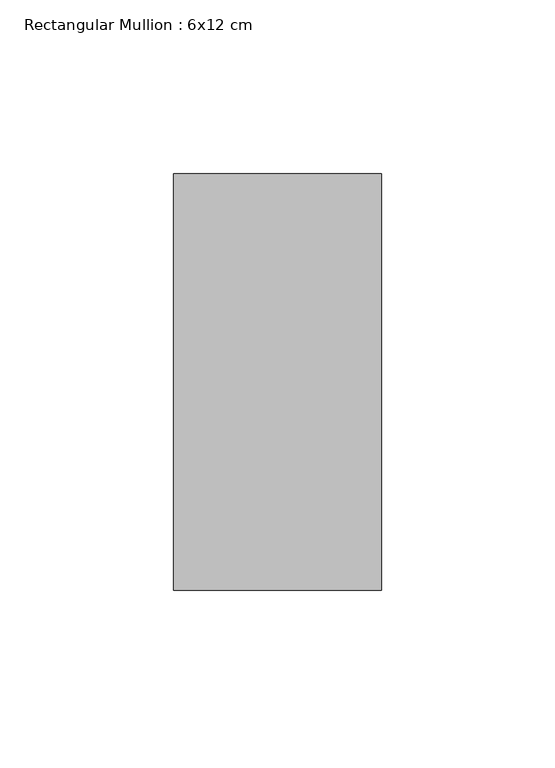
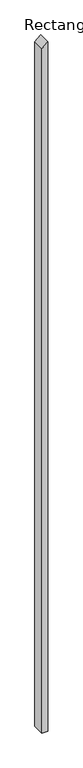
"""IFC4 building model written with IfcOpenShell, lengths in millimetres: member geometry, Rectangular Mullion : 6x12 cm."""

from ifc_helpers import new_model, si_unit, frame, origin, place, context, project, spatial, polyline, outline, extrude, source, transform, mapped, element, save


def rectangular_mullion_6x12_cm_ac06efc5(model_context):
    return source(origin(), model_context, "Body", "SweptSolid", [
        extrude(outline(polyline([(-53.2294579, 30.0), (-104.1141863, -30.0), (-7294.1016832, -30.0), (-7294.1016832, 30.0), (-53.2294579, 30.0)])), frame((0.0, 85.0, 0.0), z_axis=(0.0, 1.0, 0.0), x_axis=(0.0, 0.0, 1.0)), (0.0, 0.0, 1.0), 120.0),
    ])


if __name__ == "__main__":
    model = new_model("IFC4")
    model_context = context("Model", 3, world=origin())
    ifc_project = project(units=[si_unit("LENGTHUNIT", "METRE", prefix="MILLI")], contexts=[model_context])
    site = spatial("IfcSite", under=ifc_project)
    building = spatial("IfcBuilding", under=site)
    placement = place(None, origin())
    rectangular_mullion_6x12_cm_shape = rectangular_mullion_6x12_cm_ac06efc5(model_context)
    element("IfcMember", 1, ObjectType="Rectangular Mullion : 6x12 cm", at=placement, inside=building, context=model_context, shape_type="MappedRepresentation", body=[
        mapped(rectangular_mullion_6x12_cm_shape, transform((0.0, 0.0, 0.0), x_axis=(1.0, 0.0, 0.0), y_axis=(0.0, 1.0, 0.0), z_axis=(0.0, 0.0, 1.0))),
    ])
    save(model, "model.ifc")
